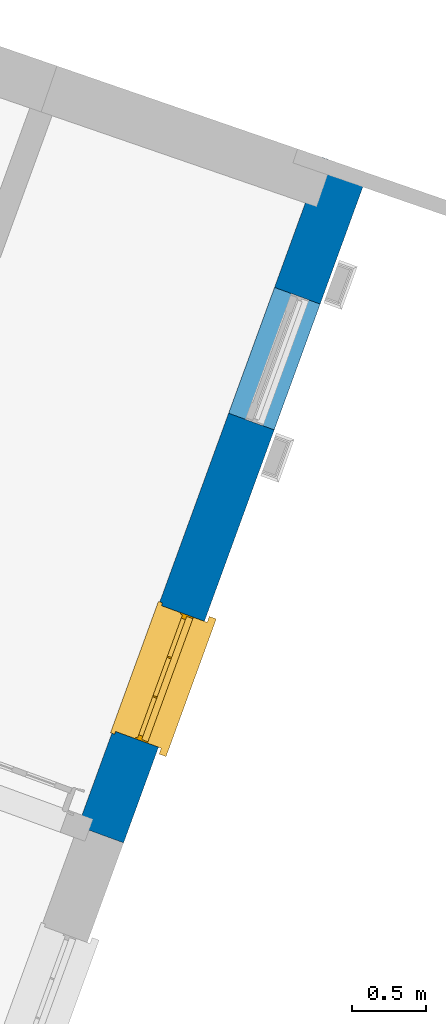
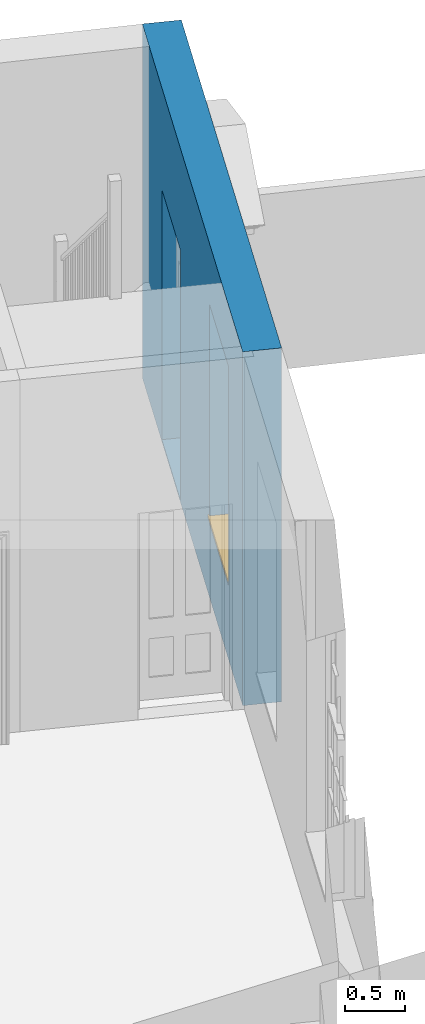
# One storey, part 5 of 6: 1 wall, 1 window, 2 openings.
"""IFC4 building model written with IfcOpenShell, lengths in metres."""

from ifc_helpers import new_model, si_unit, frame, origin, origin_with_axes, place, context, subcontext, project, spatial, polyline, outline, extrude, faceted_brep, source, transform, mapped, material, layer, layer_set, layer_usage, type_object, type_shapes, element, fill, save


model = new_model("IFC4")

# Units and contexts
model_context = context("Model", 3, world=origin_with_axes())
body_context = subcontext(model_context, "Body", "Model", "MODEL_VIEW")
ifc_project = project(units=[si_unit("PLANEANGLEUNIT", "RADIAN"), si_unit("MASSUNIT", "GRAM", prefix="KILO"), si_unit("FORCEUNIT", "NEWTON", prefix="KILO"), si_unit("LENGTHUNIT", "METRE"), si_unit("AREAUNIT", "SQUARE_METRE"), si_unit("VOLUMEUNIT", "CUBIC_METRE")], contexts=[model_context, model_context])

# Sites, building, storey
site_1_placement = place(None, origin_with_axes())
site_1 = spatial("IfcSite", under=ifc_project, at=site_1_placement, Name="Tamar")
site_2_placement = place(site_1_placement, origin_with_axes())
site_2 = spatial("IfcSite", under=site_1, at=site_2_placement, Name="Site plot-12", CompositionType="ELEMENT")
building_placement = place(None, origin_with_axes())
building = spatial("IfcBuilding", under=site_2, at=building_placement, Name="Building plot-12", CompositionType="ELEMENT")
storey_placement = place(None, frame((0.0, 0.0, 26.0), z_axis=(0.0, 0.0, 1.0), x_axis=(1.0, 0.0, 0.0)))
storey = spatial("IfcBuildingStorey", under=building, at=storey_placement, Name="plot-12 0", CompositionType="ELEMENT", Elevation=26.0)

# Wall, openings, window
ifc_material = material(Name="Masonry")
ifc_layer = layer(ifc_material, 0.33, ventilated=False)
ifc_layer_set = layer_set([ifc_layer], Name="exterior_0.08_0.25")
ifc_layer_usage = layer_usage(ifc_layer_set, "AXIS2", "POSITIVE", -0.25)
wall_type = type_object("IfcWallType", Name="exterior_0.08_0.25", PredefinedType="SOLIDWALL", material=ifc_layer_set)
wall_placement = place(storey_placement, frame((239.482570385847, 304.323971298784, 0.0), z_axis=(0.0, 0.0, 1.0), x_axis=(0.342734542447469, 0.939432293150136, 0.0)))
wall = element("IfcWall", 1, at=wall_placement, inside=storey, type_object=wall_type, material=ifc_layer_usage, Name="exterior", context=body_context, shape_type="SweptSolid", body=[
    extrude(outline(polyline([(1.37006098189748e-14, 0.0800000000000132), (-2.14962681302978e-15, -0.250000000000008), (4.83761552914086, -0.250000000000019), (4.83761552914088, 0.0800000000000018), (1.37006098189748e-14, 0.0800000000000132)])), origin_with_axes(), (0.0, 0.0, 1.0), 3.6),
])
opening_1_placement = place(wall_placement, frame((0.691903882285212, 0.0, 0.75)))
opening_1 = element("IfcOpeningElement", 2, at=opening_1_placement, cuts=wall, Name="My Opening", ObjectType="Opening", context=body_context, shape_type="SweptSolid", body=[
    extrude(outline(polyline([(0.0, -0.270000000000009), (0.910000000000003, -0.269999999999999), (0.910000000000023, 1.10000000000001), (1.92068583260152e-14, 1.1), (0.0, -0.270000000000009)])), origin_with_axes(), (0.0, 0.0, 1.0), 2.23),
])
opening_2_placement = place(wall_placement, frame((2.98571164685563, 0.0, 0.0199999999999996)))
element("IfcOpeningElement", 3, at=opening_2_placement, cuts=wall, Name="My Opening", ObjectType="Opening", context=body_context, shape_type="SweptSolid", body=[
    extrude(outline(polyline([(0.0, -0.270000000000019), (0.910000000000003, -0.270000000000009), (0.910000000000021, 1.1), (1.90958360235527e-14, 1.09999999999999), (0.0, -0.270000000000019)])), origin_with_axes(), (0.0, 0.0, 1.0), 2.545),
])
window_type = type_object("IfcWindowType", Name="sash_big_taller", PartitioningType="DOUBLE_PANEL_HORIZONTAL", PredefinedType="NOTDEFINED")
shared_shape = source(origin(), body_context, "Body", "Brep", [
    faceted_brep([(0.033125, 0.145, 1.385209), (0.01, 0.145, 1.385209), (0.033125, 0.145, 1.786042), (0.876875, 0.145, 1.385209), (0.876875, 0.145, 1.786042), (0.9, 0.145, 1.385209), (0.876875, 0.145, 1.796042), (0.876875, 0.145, 2.196875), (0.9, 0.145, 2.22), (0.033125, 0.145, 2.196875), (0.033125, 0.145, 1.796042), (0.01, 0.145, 2.22), (0.876875, 0.115, 1.786042), (0.876875, 0.115, 1.385209), (0.9, 0.115, 1.347084), (0.033125, 0.115, 2.196875), (0.01, 0.115, 2.22), (0.033125, 0.115, 1.796042), (0.01, 0.115, 1.347084), (0.033125, 0.115, 1.385209), (0.033125, 0.115, 1.786042), (0.876875, 0.115, 2.196875), (0.876875, 0.115, 1.796042), (0.9, 0.115, 2.22), (0.033125, 0.145, 1.347084), (0.01, 0.145, 1.347084), (0.033125, 0.145, 0.94625), (0.876875, 0.145, 1.347084), (0.876875, 0.145, 0.94625), (0.9, 0.145, 1.347084), (0.876875, 0.145, 0.52625), (0.876875, 0.145, 0.125417), (0.9, 0.145, 0.077167), (0.033125, 0.145, 0.125417), (0.033125, 0.145, 0.52625), (0.01, 0.145, 0.077167), (-0.0425, 0.0, 0.01), (-0.0425, -0.05, 0.001667), (0.0, 0.0, 0.01), (0.9525, 0.0, 0.01), (0.91, 0.0, 0.01), (0.9525, -0.05, 0.001667), (-0.02, 0.33, 0.077167), (0.0, 0.33, 0.077167), (-0.02, 0.36, 0.077167), (0.0, 0.19, 0.077167), (0.01, 0.19, 0.077167), (0.91, 0.19, 0.077167), (0.91, 0.33, 0.077167), (0.9, 0.19, 0.077167), (0.93, 0.33, 0.077167), (0.93, 0.36, 0.077167), (0.01, 0.175, 1.385209), (0.9, 0.175, 1.385209), (0.876875, 0.175, 0.125417), (0.876875, 0.175, 0.52625), (0.9, 0.175, 0.077167), (0.876875, 0.175, 0.94625), (0.876875, 0.175, 1.347084), (0.033125, 0.175, 0.125417), (0.01, 0.175, 0.077167), (0.033125, 0.175, 0.52625), (0.033125, 0.175, 1.347084), (0.033125, 0.175, 0.94625), (-0.02, 0.33, 0.052167), (-0.02, 0.36, 0.052167), (0.93, 0.36, 0.052167), (0.93, 0.33, 0.052167), (0.91, 0.33, 0.052167), (0.0, 0.33, 0.052167), (0.91, 0.1, 0.026667), (0.0, 0.1, 0.026667), (-0.0425, -0.05, -0.123333), (0.9525, -0.05, -0.123333), (-0.0425, 0.0, -0.123333), (0.9525, 0.0, -0.123333), (0.01, 0.19, 2.22), (0.9, 0.19, 2.22), (0.0, 0.19, 2.23), (0.91, 0.19, 2.23), (0.01, 0.1, 0.077167), (0.9, 0.1, 0.077167), (0.592292, 0.145, 0.125417), (0.592292, 0.175, 0.125417), (0.317708, 0.175, 0.125417), (0.317708, 0.145, 0.125417), (0.592292, 0.145, 0.53625), (0.317708, 0.145, 0.53625), (0.317708, 0.145, 0.52625), (0.592292, 0.145, 0.52625), (0.592292, 0.175, 0.53625), (0.317708, 0.175, 0.53625), (0.592292, 0.115, 1.796042), (0.592292, 0.145, 1.796042), (0.317708, 0.145, 1.796042), (0.317708, 0.115, 1.796042), (0.317708, 0.115, 1.786042), (0.592292, 0.115, 1.786042), (0.317708, 0.145, 1.786042), (0.592292, 0.145, 1.786042), (0.602292, 0.115, 1.786042), (0.592292, 0.115, 1.385209), (0.602292, 0.115, 1.385209), (0.602292, 0.145, 1.385209), (0.592292, 0.145, 1.385209), (0.602292, 0.145, 1.786042), (0.876875, 0.145, 0.53625), (0.876875, 0.175, 0.53625), (0.602292, 0.175, 0.53625), (0.602292, 0.145, 0.53625), (0.317708, 0.175, 0.52625), (0.307708, 0.175, 0.125417), (0.307708, 0.175, 0.52625), (0.602292, 0.175, 0.52625), (0.602292, 0.175, 0.125417), (0.592292, 0.175, 0.52625), (0.307708, 0.175, 0.53625), (0.033125, 0.175, 0.53625), (0.317708, 0.175, 1.347084), (0.317708, 0.175, 0.94625), (0.307708, 0.175, 0.94625), (0.307708, 0.175, 1.347084), (0.602292, 0.175, 1.347084), (0.602292, 0.175, 0.94625), (0.592292, 0.175, 0.94625), (0.592292, 0.175, 1.347084), (0.307708, 0.145, 0.52625), (0.307708, 0.145, 0.125417), (0.307708, 0.145, 0.53625), (0.033125, 0.145, 0.53625), (0.307708, 0.145, 1.347084), (0.307708, 0.145, 0.94625), (0.592292, 0.145, 1.347084), (0.592292, 0.145, 0.94625), (0.317708, 0.145, 0.94625), (0.317708, 0.145, 1.347084), (0.602292, 0.145, 0.94625), (0.602292, 0.145, 1.347084), (0.602292, 0.145, 0.52625), (0.602292, 0.145, 0.125417), (0.307708, 0.115, 1.796042), (0.307708, 0.115, 1.786042), (0.307708, 0.115, 1.385209), (0.317708, 0.115, 1.385209), (0.317708, 0.115, 2.196875), (0.307708, 0.115, 2.196875), (0.602292, 0.115, 2.196875), (0.592292, 0.115, 2.196875), (0.602292, 0.115, 1.796042), (0.602292, 0.145, 1.796042), (0.307708, 0.145, 1.796042), (0.307708, 0.145, 2.196875), (0.317708, 0.145, 2.196875), (0.592292, 0.145, 2.196875), (0.602292, 0.145, 2.196875), (0.307708, 0.145, 1.786042), (0.317708, 0.145, 1.385209), (0.307708, 0.145, 1.385209), (0.876875, 0.175, 0.93625), (0.033125, 0.175, 0.93625), (0.033125, 0.145, 0.93625), (0.876875, 0.145, 0.93625), (0.91, 0.1, 2.23), (0.9, 0.1, 2.22), (0.01, 0.1, 2.22), (0.0, 0.1, 2.23), (0.91, 0.0, 0.0), (0.0, 0.0, 0.0), (0.91, 0.33, 0.0), (0.0, 0.33, 0.0), (0.317708, 0.145, 0.93625), (0.592292, 0.145, 0.93625), (0.317708, 0.175, 0.93625), (0.307708, 0.175, 0.93625), (0.602292, 0.175, 0.93625), (0.592292, 0.175, 0.93625), (0.307708, 0.145, 0.93625), (0.602292, 0.145, 0.93625)], [[[0, 1, 2]], [[3, 4, 5]], [[6, 7, 8]], [[9, 10, 11]], [[12, 13, 14]], [[15, 16, 17]], [[18, 19, 20]], [[21, 22, 23]], [[24, 25, 26]], [[27, 28, 29]], [[30, 31, 32]], [[33, 34, 35]], [[14, 27, 29]], [[25, 24, 18]], [[36, 37, 38]], [[39, 40, 41]], [[42, 43, 44]], [[45, 46, 43]], [[47, 48, 49]], [[50, 51, 48]], [[1, 0, 52]], [[5, 53, 3]], [[54, 55, 56]], [[57, 58, 53]], [[59, 60, 61]], [[62, 63, 52]], [[48, 43, 46, 49]], [[51, 44, 43, 48]], [[64, 42, 44, 65]], [[65, 44, 51, 66]], [[66, 51, 50, 67]], [[65, 66, 68, 69]], [[60, 56, 49, 46]], [[70, 71, 38, 40]], [[37, 41, 40, 38]], [[37, 72, 73, 41]], [[74, 75, 73, 72]], [[8, 11, 76, 77]], [[76, 78, 79, 77]], [[32, 35, 80, 81]], [[81, 80, 71, 70]], [[82, 83, 84, 85]], [[86, 87, 88, 89]], [[86, 90, 91, 87]], [[92, 93, 94, 95]], [[92, 95, 96, 97]], [[96, 98, 99, 97]], [[100, 97, 101, 102]], [[103, 104, 99, 105]], [[97, 99, 104, 101]], [[102, 103, 105, 100]], [[106, 107, 108, 109]], [[110, 84, 111, 112]], [[113, 114, 83, 115]], [[116, 112, 61, 117]], [[90, 115, 110, 91]], [[118, 119, 120, 121]], [[122, 123, 124, 125]], [[113, 108, 107, 55]], [[126, 112, 111, 127]], [[34, 61, 112, 126]], [[89, 115, 83, 82]], [[88, 110, 115, 89]], [[85, 84, 110, 88]], [[128, 116, 117, 129]], [[130, 121, 120, 131]], [[132, 125, 124, 133]], [[134, 119, 118, 135]], [[136, 123, 122, 137]], [[138, 113, 55, 30]], [[139, 114, 113, 138]], [[138, 30, 106, 109]], [[88, 126, 127, 85]], [[138, 89, 82, 139]], [[137, 132, 133, 136]], [[128, 129, 34, 126]], [[135, 130, 131, 134]], [[140, 17, 20, 141]], [[96, 141, 142, 143]], [[144, 145, 140, 95]], [[146, 147, 92, 148]], [[100, 12, 22, 148]], [[149, 6, 4, 105]], [[94, 150, 151, 152]], [[149, 93, 153, 154]], [[99, 98, 94, 93]], [[155, 2, 10, 150]], [[156, 157, 155, 98]], [[141, 155, 157, 142]], [[20, 2, 155, 141]], [[143, 156, 98, 96]], [[140, 150, 10, 17]], [[145, 151, 150, 140]], [[147, 153, 93, 92]], [[95, 94, 152, 144]], [[22, 6, 149, 148]], [[148, 149, 154, 146]], [[100, 105, 4, 12]], [[109, 86, 89, 138]], [[108, 113, 115, 90]], [[91, 110, 112, 116]], [[87, 128, 126, 88]], [[97, 100, 148, 92]], [[141, 96, 95, 140]], [[98, 155, 150, 94]], [[105, 99, 93, 149]], [[143, 101, 104, 156]], [[135, 118, 125, 132]], [[144, 152, 153, 147]], [[127, 111, 59, 33]], [[15, 9, 151, 145]], [[146, 154, 7, 21]], [[31, 54, 114, 139]], [[36, 74, 72, 37]], [[39, 41, 73, 75]], [[18, 14, 101, 143]], [[23, 16, 144, 147]], [[83, 56, 60, 84]], [[52, 53, 125, 118]], [[53, 52, 156, 104]], [[11, 8, 153, 152]], [[14, 18, 135, 132]], [[2, 1, 11, 10]], [[8, 5, 4, 6]], [[57, 53, 56, 158]], [[60, 52, 63, 159]], [[26, 25, 35, 160]], [[32, 29, 28, 161]], [[14, 23, 22, 12]], [[18, 20, 17, 16]], [[19, 0, 2, 20]], [[17, 10, 9, 15]], [[12, 4, 3, 13]], [[21, 7, 6, 22]], [[27, 58, 57, 28]], [[30, 55, 54, 31]], [[33, 59, 61, 34]], [[26, 63, 62, 24]], [[5, 8, 77, 53]], [[76, 11, 1, 52]], [[46, 45, 78, 76]], [[49, 77, 79, 47]], [[70, 162, 163, 81]], [[71, 80, 164, 165]], [[19, 142, 157, 0]], [[102, 13, 3, 103]], [[121, 130, 24, 62]], [[29, 32, 81, 14]], [[80, 35, 25, 18]], [[60, 46, 76, 52]], [[77, 49, 56, 53]], [[23, 14, 81, 163]], [[16, 164, 80, 18]], [[35, 85, 127]], [[127, 33, 35]], [[139, 82, 32]], [[32, 31, 139]], [[32, 82, 85, 35]], [[102, 101, 14]], [[14, 13, 102]], [[18, 143, 142]], [[142, 19, 18]], [[146, 21, 23]], [[23, 147, 146]], [[16, 15, 145]], [[145, 144, 16]], [[11, 152, 151]], [[151, 9, 11]], [[154, 153, 8]], [[8, 7, 154]], [[23, 163, 164, 16]], [[162, 165, 164, 163]], [[52, 118, 121]], [[121, 62, 52]], [[125, 53, 122]], [[58, 122, 53]], [[27, 137, 122, 58]], [[56, 83, 114]], [[114, 54, 56]], [[111, 84, 60]], [[60, 59, 111]], [[137, 27, 14]], [[14, 132, 137]], [[130, 135, 18]], [[18, 24, 130]], [[157, 156, 52]], [[52, 0, 157]], [[103, 3, 53]], [[53, 104, 103]], [[79, 78, 165, 162]], [[78, 45, 71, 165]], [[162, 70, 47, 79]], [[166, 75, 74, 167]], [[68, 66, 67]], [[48, 68, 67, 50]], [[69, 64, 65]], [[42, 64, 69, 43]], [[69, 68, 168, 169]], [[70, 68, 48, 47]], [[166, 168, 68, 70]], [[43, 69, 71, 45]], [[69, 169, 167, 71]], [[168, 166, 167, 169]], [[38, 167, 74, 36]], [[71, 167, 38]], [[39, 75, 166, 40]], [[40, 166, 70]], [[133, 134, 170, 171]], [[133, 124, 119, 134]], [[28, 57, 123, 136]], [[172, 91, 116, 173]], [[174, 108, 90, 175]], [[120, 173, 159, 63]], [[124, 175, 172, 119]], [[174, 123, 57, 158]], [[176, 173, 116, 128]], [[160, 159, 173, 176]], [[171, 175, 90, 86]], [[170, 172, 175, 171]], [[87, 91, 172, 170]], [[131, 120, 63, 26]], [[177, 174, 158, 161]], [[109, 108, 174, 177]], [[177, 161, 28, 136]], [[170, 176, 128, 87]], [[177, 171, 86, 109]], [[131, 26, 160, 176]], [[136, 133, 171, 177]], [[123, 174, 175, 124]], [[119, 172, 173, 120]], [[134, 131, 176, 170]], [[129, 117, 159, 160]], [[161, 158, 107, 106]], [[35, 34, 129]], [[35, 129, 160]], [[32, 106, 30]], [[32, 161, 106]], [[56, 55, 107]], [[56, 107, 158]], [[60, 117, 61]], [[60, 159, 117]]]),
])
type_shapes(window_type, [shared_shape])
window_placement = place(storey_placement, frame((239.97335646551, 304.881429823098, 0.75), z_axis=(0.0, 0.0, 1.0), x_axis=(0.311888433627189, 0.85488338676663, 0.0)))
window = element("IfcWindow", 4, at=window_placement, inside=storey, type_object=window_type, Name="circulation outside window", OverallHeight=2.23, OverallWidth=0.91, context=body_context, shape_type="MappedRepresentation", body=[
    mapped(shared_shape, transform((0.0, 0.0, 0.0), scale=1.0)),
])
fill(opening_1, window)

save(model, "model.ifc")
